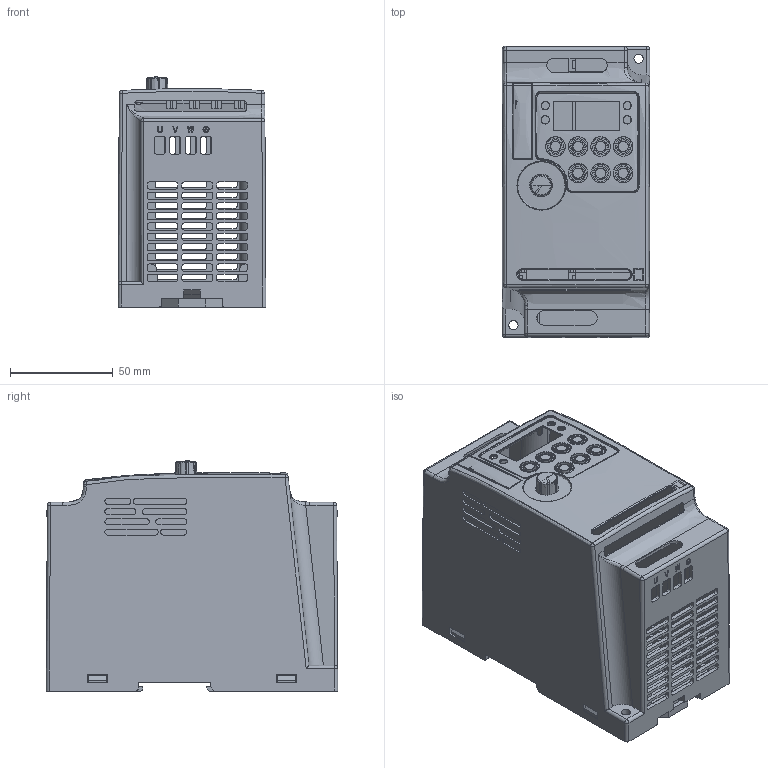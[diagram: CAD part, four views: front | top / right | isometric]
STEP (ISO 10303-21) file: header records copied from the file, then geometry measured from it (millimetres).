
FILE_DESCRIPTION((''),'2;1');
FILE_NAME('S23_ASM_ASM','2019-02-25T',('PC-TR'),(''),'PRO/ENGINEER BY PARAMETRIC TECHNOLOGY CORPORATION, 2010280','PRO/ENGINEER BY PARAMETRIC TECHNOLOGY CORPORATION, 2010280','');
FILE_SCHEMA(('CONFIG_CONTROL_DESIGN'));
Products named in the file (1): S23_ASM_ASM
Bounding box: 72.04 x 142.04 x 112.2 mm (x, y, z)
Surface area: 165073.2 mm2 (no closed solid volume)
Topology: 0 solids, 41 shells, 2411 faces, 6886 edges, 4563 vertices
Faces by surface type: plane 1581, cylinder 611, bspline 125, torus 39, cone 31, sphere 18, extrusion 6
Entity records: 90750 total; most frequent: CARTESIAN_POINT 30075, ORIENTED_EDGE 13553, DIRECTION 10780, EDGE_CURVE 6870, VECTOR 4732, LINE 4726, VERTEX_POINT 4563, AXIS2_PLACEMENT_3D 3024
